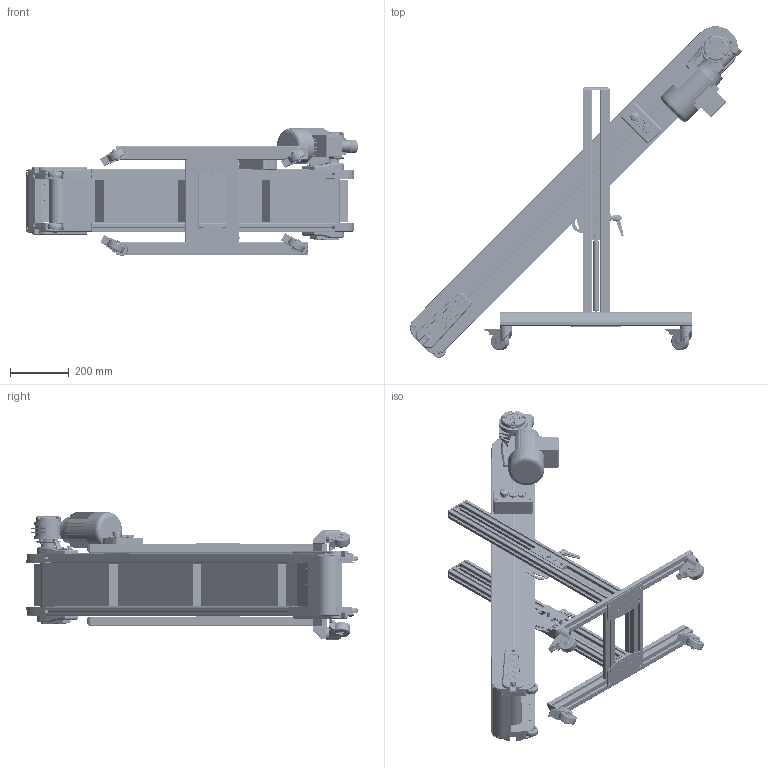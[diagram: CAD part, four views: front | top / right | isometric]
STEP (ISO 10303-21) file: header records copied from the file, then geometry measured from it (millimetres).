
FILE_DESCRIPTION (( 'STEP AP203' ), '1' );
FILE_NAME ('NASTRO_STAMPAGGIO_PLASTICA.step', '2026-05-29T16:10:25', ( 'Utente Windows' ), ( '' ), 'SwSTEP 2.0', 'SolidWorks 2024', '' );
FILE_SCHEMA (( 'CONFIG_CONTROL_DESIGN' ));
Length unit declared in the file: millimetre
Products named in the file (76): RIVM8ESA; 013.100.050_L; 361102 serie 36; 084.802.071; 3sb30000aa21_01; VITI TCEI UNI 5931_M8x45 UNI 5931; xald03h7_10; 084.302.075; 013.100.045; 084.831.004; 3sb30000aa41_02; VITI TE UNI 5739_M8x35 UNI 5739; RONDELLE FASCIA LARGA UNI 6593_8.4x24 UNI 6593; xald03h7_11; VITI TE UNI 5739_M6x120 UNI5739; xald03h7_05; 084.527.014 - STELO; 084.831.KD.44.150_DX; MR.63 p-M8x16; VITI TCEI UNI 5931_M5x12 UNI 5931; 084.301.000 VITI ALUSIC_084.301.003; xald03h7_08; 084.831.027; 084.831.023; xald03h7_09; 084.831.KI.150; 084.831.040.150; xald03h7_04; RONDELLE UNI 6592_8.4x17 UNI 6592; 013.100.050; 084.831.032_Default<A macchina>; 084.527.013; 084.831.001_Default<A macchina>; 084.527.014 - CORPO; 084.831.024; TAPPETO_D; CHIAVETTE_A 6x6x60 UNI 6604-69; 084.831.017; a165els24d01_02; 084.831.056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
Assembly tree (133 placements, depth 4):
  xald03h7_10
  xald03h7_11
  xald03h7_05
  xald03h7_08
  xald03h7_09
Bounding box: 1127.85 x 1126.07 x 433.32 mm (x, y, z)
Volume: 12087979.8 mm3; surface area: 8583110.3 mm2
Topology: 179 solids, 186 shells, 12906 faces, 34495 edges, 22132 vertices
Faces by surface type: plane 5670, cylinder 3986, cone 1448, bspline 1083, torus 565, sphere 154
Entity records: 302140 total; most frequent: CARTESIAN_POINT 94091, ORIENTED_EDGE 44016, DIRECTION 38692, EDGE_CURVE 22008, VERTEX_POINT 14189, AXIS2_PLACEMENT_3D 13527, LINE 11638, VECTOR 11638
